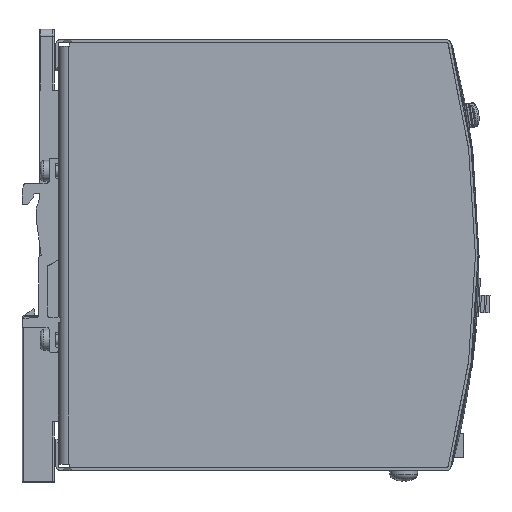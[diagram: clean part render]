
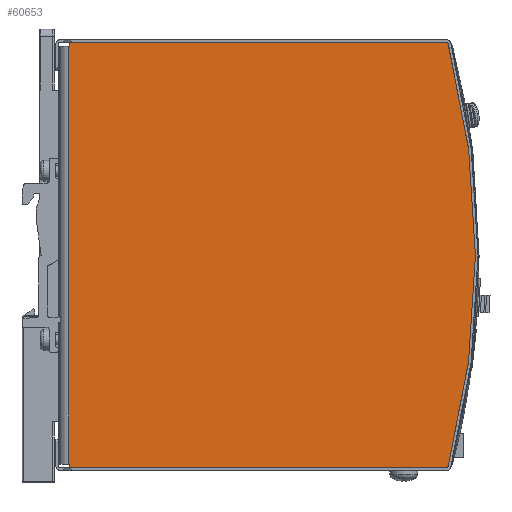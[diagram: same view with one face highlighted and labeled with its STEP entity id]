
A CAD part, front view. The second image highlights one B-rep face of the part: STEP entity #60653.
In plain terms, the highlighted planar face has unit normal (0, -1, 0) as drawn and (-1, 0, 0) by its records, which use the part's own axes.
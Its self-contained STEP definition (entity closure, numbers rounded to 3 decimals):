
#2086=LINE('',#81906,#9112);
#2090=LINE('',#81915,#9116);
#2096=LINE('',#81929,#9122);
#2099=LINE('',#81939,#9125);
#2110=LINE('',#81964,#9136);
#2117=LINE('',#81982,#9143);
#2118=LINE('',#81990,#9144);
#9112=VECTOR('',#67555,0.1);
#9116=VECTOR('',#67563,1.);
#9122=VECTOR('',#67573,1.);
#9125=VECTOR('',#67582,0.1);
#9136=VECTOR('',#67601,108.593);
#9143=VECTOR('',#67622,120.3);
#9144=VECTOR('',#67631,108.593);
#16133=PLANE('',#63878);
#19445=FACE_OUTER_BOUND('',#22644,.T.);
#22644=EDGE_LOOP('',(#42564,#42565,#42566,#42567,#42568,#42569,#42570,#42571,
#42572,#42573));
#26719=CIRCLE('',#63879,0.5);
#26720=CIRCLE('',#63880,240.);
#26721=CIRCLE('',#63881,0.5);
#27555=VERTEX_POINT('',#81903);
#27556=VERTEX_POINT('',#81905);
#27559=VERTEX_POINT('',#81913);
#27564=VERTEX_POINT('',#81926);
#27565=VERTEX_POINT('',#81928);
#27569=VERTEX_POINT('',#81937);
#27579=VERTEX_POINT('',#81962);
#27584=VERTEX_POINT('',#81984);
#27585=VERTEX_POINT('',#81986);
#27586=VERTEX_POINT('',#81988);
#33528=EDGE_CURVE('',#27556,#27555,#2086,.T.);
#33533=EDGE_CURVE('',#27555,#27559,#2090,.T.);
#33539=EDGE_CURVE('',#27565,#27564,#2096,.T.);
#33544=EDGE_CURVE('',#27564,#27569,#2099,.T.);
#33557=EDGE_CURVE('',#27559,#27579,#2110,.T.);
#33567=EDGE_CURVE('',#27556,#27569,#2117,.T.);
#33568=EDGE_CURVE('',#27584,#27579,#26719,.T.);
#33569=EDGE_CURVE('',#27584,#27585,#26720,.T.);
#33570=EDGE_CURVE('',#27586,#27585,#26721,.T.);
#33571=EDGE_CURVE('',#27586,#27565,#2118,.T.);
#42564=ORIENTED_EDGE('',*,*,#33528,.T.);
#42565=ORIENTED_EDGE('',*,*,#33533,.T.);
#42566=ORIENTED_EDGE('',*,*,#33557,.T.);
#42567=ORIENTED_EDGE('',*,*,#33568,.F.);
#42568=ORIENTED_EDGE('',*,*,#33569,.T.);
#42569=ORIENTED_EDGE('',*,*,#33570,.F.);
#42570=ORIENTED_EDGE('',*,*,#33571,.T.);
#42571=ORIENTED_EDGE('',*,*,#33539,.T.);
#42572=ORIENTED_EDGE('',*,*,#33544,.T.);
#42573=ORIENTED_EDGE('',*,*,#33567,.F.);
#60653=ADVANCED_FACE('',(#19445),#16133,.T.);
#63878=AXIS2_PLACEMENT_3D('',#81983,#67623,#67624);
#63879=AXIS2_PLACEMENT_3D('',#81985,#67625,#67626);
#63880=AXIS2_PLACEMENT_3D('',#81987,#67627,#67628);
#63881=AXIS2_PLACEMENT_3D('',#81989,#67629,#67630);
#67555=DIRECTION('',(0.,0.,-1.));
#67563=DIRECTION('',(0.,1.,0.));
#67573=DIRECTION('',(0.,1.,0.));
#67582=DIRECTION('',(0.,0.,1.));
#67601=DIRECTION('',(0.,0.,-1.));
#67622=DIRECTION('',(0.,-1.,0.));
#67623=DIRECTION('center_axis',(-1.,0.,0.));
#67624=DIRECTION('ref_axis',(0.,0.,1.));
#67625=DIRECTION('center_axis',(1.,0.,0.));
#67626=DIRECTION('ref_axis',(0.,0.792,-0.611));
#67627=DIRECTION('center_axis',(-1.,0.,0.));
#67628=DIRECTION('ref_axis',(0.,0.,1.));
#67629=DIRECTION('center_axis',(1.,0.,0.));
#67630=DIRECTION('ref_axis',(0.,-0.792,-0.611));
#67631=DIRECTION('',(0.,0.,1.));
#81903=CARTESIAN_POINT('',(-32.5,60.15,-1.6));
#81905=CARTESIAN_POINT('',(-32.5,60.15,-1.5));
#81906=CARTESIAN_POINT('',(-32.5,60.15,1.5));
#81913=CARTESIAN_POINT('',(-32.5,61.15,-1.6));
#81915=CARTESIAN_POINT('',(-32.5,-0.25,-1.6));
#81926=CARTESIAN_POINT('',(-32.5,-60.15,-1.6));
#81928=CARTESIAN_POINT('',(-32.5,-61.15,-1.6));
#81929=CARTESIAN_POINT('',(-32.5,-60.9,-1.6));
#81937=CARTESIAN_POINT('',(-32.5,-60.15,-1.5));
#81939=CARTESIAN_POINT('',(-32.5,-60.15,1.5));
#81962=CARTESIAN_POINT('',(-32.5,61.15,-110.193));
#81964=CARTESIAN_POINT('',(-32.5,61.15,-128.5));
#81982=CARTESIAN_POINT('',(-32.5,-61.15,-1.5));
#81983=CARTESIAN_POINT('Origin',(-32.5,-61.15,1.5));
#81984=CARTESIAN_POINT('',(-32.5,60.777,-110.677));
#81985=CARTESIAN_POINT('Origin',(-32.5,60.65,-110.193));
#81986=CARTESIAN_POINT('',(-32.5,-60.777,-110.677));
#81987=CARTESIAN_POINT('Origin',(-32.5,0.,121.5));
#81988=CARTESIAN_POINT('',(-32.5,-61.15,-110.193));
#81989=CARTESIAN_POINT('Origin',(-32.5,-60.65,-110.193));
#81990=CARTESIAN_POINT('',(-32.5,-61.15,-128.5));
